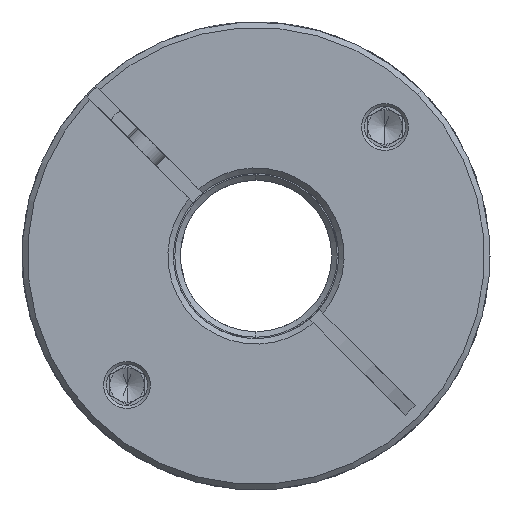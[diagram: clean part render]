
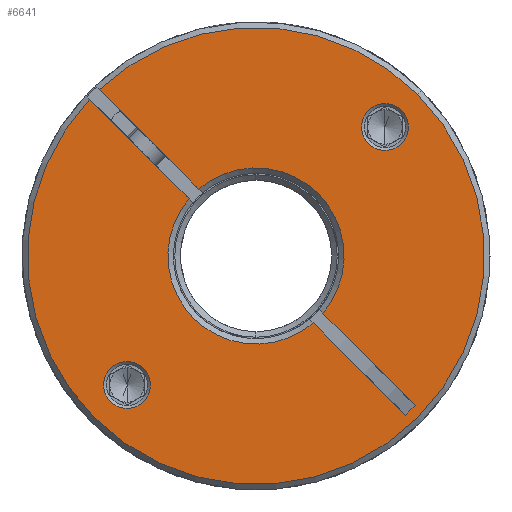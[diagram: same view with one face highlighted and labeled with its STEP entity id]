
A CAD part, front view. The second image highlights one B-rep face of the part: STEP entity #6641.
In plain terms, the highlighted planar face has unit normal (0, -1, 0).
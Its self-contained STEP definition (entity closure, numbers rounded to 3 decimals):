
#96 = CARTESIAN_POINT ( 'NONE',  ( -2.735, -67.045, 68. ) ) ;
#112 = CARTESIAN_POINT ( 'NONE',  ( -19.069, -67.045, 51.666 ) ) ;
#345 = DIRECTION ( 'NONE',  ( 0., 1., 0. ) ) ;
#579 = VERTEX_POINT ( 'NONE', #12844 ) ;
#921 = AXIS2_PLACEMENT_3D ( 'NONE', #18642, #13602, #7111 ) ;
#1313 = CARTESIAN_POINT ( 'NONE',  ( -21.473, -67.045, 49.262 ) ) ;
#1530 = CARTESIAN_POINT ( 'NONE',  ( -26.908, -67.045, 90.758 ) ) ;
#1947 = EDGE_CURVE ( 'NONE', #2160, #10834, #5643, .T. ) ;
#2086 = CARTESIAN_POINT ( 'NONE',  ( 16.003, -67.045, 86.738 ) ) ;
#2113 = DIRECTION ( 'NONE',  ( 0.707, 0., 0.707 ) ) ;
#2160 = VERTEX_POINT ( 'NONE', #17704 ) ;
#2212 = CIRCLE ( 'NONE', #14726, 33.2 ) ;
#2274 = DIRECTION ( 'NONE',  ( 0.707, 0., 0.707 ) ) ;
#2283 = DIRECTION ( 'NONE',  ( -0.707, 0., -0.707 ) ) ;
#2459 = EDGE_CURVE ( 'NONE', #16603, #4626, #15857, .T. ) ;
#2693 = CIRCLE ( 'NONE', #17667, 3.4 ) ;
#2776 = CARTESIAN_POINT ( 'NONE',  ( 13.599, -67.045, 84.334 ) ) ;
#3267 = CIRCLE ( 'NONE', #14292, 33.2 ) ;
#3310 = DIRECTION ( 'NONE',  ( 0., 1., 0. ) ) ;
#3694 = LINE ( 'NONE', #20090, #15711 ) ;
#3857 = ORIENTED_EDGE ( 'NONE', *, *, #18635, .T. ) ;
#3878 = CARTESIAN_POINT ( 'NONE',  ( -2.735, -67.045, 68. ) ) ;
#4370 = VERTEX_POINT ( 'NONE', #10350 ) ;
#4403 = DIRECTION ( 'NONE',  ( 0.707, 0., 0.707 ) ) ;
#4626 = VERTEX_POINT ( 'NONE', #10894 ) ;
#5225 = LINE ( 'NONE', #15446, #18880 ) ;
#5359 = EDGE_CURVE ( 'NONE', #8835, #12065, #14728, .T. ) ;
#5553 = FACE_BOUND ( 'NONE', #18301, .T. ) ;
#5595 = CARTESIAN_POINT ( 'NONE',  ( 20.402, -67.045, 46.277 ) ) ;
#5643 = CIRCLE ( 'NONE', #15211, 12.8 ) ;
#5666 = PLANE ( 'NONE',  #6528 ) ;
#5888 = ORIENTED_EDGE ( 'NONE', *, *, #19099, .T. ) ;
#5935 = CARTESIAN_POINT ( 'NONE',  ( -21.473, -67.045, 49.262 ) ) ;
#6236 = EDGE_CURVE ( 'NONE', #20169, #11390, #2693, .T. ) ;
#6528 = AXIS2_PLACEMENT_3D ( 'NONE', #18557, #17151, #2113 ) ;
#6560 = VECTOR ( 'NONE', #13234, 1000. ) ;
#6641 = ADVANCED_FACE ( 'NONE', ( #5553, #15030, #10391 ), #5666, .T. ) ;
#6821 = CARTESIAN_POINT ( 'NONE',  ( -2.028, -67.045, 68.707 ) ) ;
#7085 = EDGE_CURVE ( 'NONE', #14540, #2160, #19960, .T. ) ;
#7111 = DIRECTION ( 'NONE',  ( 0.707, 0., 0.707 ) ) ;
#7165 = VECTOR ( 'NONE', #2283, 1000. ) ;
#7708 = AXIS2_PLACEMENT_3D ( 'NONE', #11542, #13189, #16526 ) ;
#7863 = CARTESIAN_POINT ( 'NONE',  ( -23.878, -67.045, 46.858 ) ) ;
#8000 = VERTEX_POINT ( 'NONE', #18531 ) ;
#8171 = EDGE_CURVE ( 'NONE', #579, #4626, #5225, .T. ) ;
#8244 = DIRECTION ( 'NONE',  ( 0.707, 0., -0.707 ) ) ;
#8682 = ORIENTED_EDGE ( 'NONE', *, *, #12754, .T. ) ;
#8835 = VERTEX_POINT ( 'NONE', #1530 ) ;
#8938 = ORIENTED_EDGE ( 'NONE', *, *, #7085, .T. ) ;
#9269 = CARTESIAN_POINT ( 'NONE',  ( -2.735, -67.045, 68. ) ) ;
#9451 = CARTESIAN_POINT ( 'NONE',  ( -26.211, -67.045, 44.524 ) ) ;
#9524 = DIRECTION ( 'NONE',  ( 0., 1., 0. ) ) ;
#9591 = EDGE_LOOP ( 'NONE', ( #18431, #5888 ) ) ;
#9814 = DIRECTION ( 'NONE',  ( 0., 1., 0. ) ) ;
#10350 = CARTESIAN_POINT ( 'NONE',  ( 6.995, -67.045, 59.684 ) ) ;
#10385 = CARTESIAN_POINT ( 'NONE',  ( 18.988, -67.045, 44.862 ) ) ;
#10391 = FACE_OUTER_BOUND ( 'NONE', #14769, .T. ) ;
#10405 = DIRECTION ( 'NONE',  ( 0.707, 0., 0.707 ) ) ;
#10568 = DIRECTION ( 'NONE',  ( 0., 1., 0. ) ) ;
#10705 = AXIS2_PLACEMENT_3D ( 'NONE', #1313, #3310, #14767 ) ;
#10827 = AXIS2_PLACEMENT_3D ( 'NONE', #9269, #10889, #4403 ) ;
#10834 = VERTEX_POINT ( 'NONE', #14389 ) ;
#10889 = DIRECTION ( 'NONE',  ( 0., -1., 0. ) ) ;
#10894 = CARTESIAN_POINT ( 'NONE',  ( 18.988, -67.045, 44.862 ) ) ;
#11214 = CARTESIAN_POINT ( 'NONE',  ( 16.003, -67.045, 86.738 ) ) ;
#11390 = VERTEX_POINT ( 'NONE', #7863 ) ;
#11542 = CARTESIAN_POINT ( 'NONE',  ( -2.735, -67.045, 68. ) ) ;
#11730 = DIRECTION ( 'NONE',  ( 0., -1., 0. ) ) ;
#12065 = VERTEX_POINT ( 'NONE', #9451 ) ;
#12097 = CARTESIAN_POINT ( 'NONE',  ( -12.466, -67.045, 76.316 ) ) ;
#12219 = CIRCLE ( 'NONE', #10705, 3.4 ) ;
#12621 = EDGE_CURVE ( 'NONE', #8000, #14540, #2212, .T. ) ;
#12754 = EDGE_CURVE ( 'NONE', #12065, #8000, #3267, .T. ) ;
#12844 = CARTESIAN_POINT ( 'NONE',  ( 5.581, -67.045, 58.27 ) ) ;
#12949 = ORIENTED_EDGE ( 'NONE', *, *, #2459, .T. ) ;
#12993 = CIRCLE ( 'NONE', #921, 12.8 ) ;
#13067 = CARTESIAN_POINT ( 'NONE',  ( -3.442, -67.045, 67.293 ) ) ;
#13189 = DIRECTION ( 'NONE',  ( 0., 1., 0. ) ) ;
#13234 = DIRECTION ( 'NONE',  ( 0.707, 0., -0.707 ) ) ;
#13422 = CIRCLE ( 'NONE', #13522, 3.4 ) ;
#13449 = DIRECTION ( 'NONE',  ( 0.707, 0., 0.707 ) ) ;
#13522 = AXIS2_PLACEMENT_3D ( 'NONE', #2086, #345, #10405 ) ;
#13549 = ORIENTED_EDGE ( 'NONE', *, *, #19064, .T. ) ;
#13602 = DIRECTION ( 'NONE',  ( 0., 1., 0. ) ) ;
#13805 = ORIENTED_EDGE ( 'NONE', *, *, #14914, .T. ) ;
#14231 = EDGE_CURVE ( 'NONE', #8835, #14922, #20692, .T. ) ;
#14259 = DIRECTION ( 'NONE',  ( 0.707, 0., -0.707 ) ) ;
#14275 = CIRCLE ( 'NONE', #18222, 3.4 ) ;
#14292 = AXIS2_PLACEMENT_3D ( 'NONE', #3878, #20380, #2274 ) ;
#14389 = CARTESIAN_POINT ( 'NONE',  ( 6.316, -67.045, 77.051 ) ) ;
#14425 = EDGE_CURVE ( 'NONE', #15950, #18968, #13422, .T. ) ;
#14540 = VERTEX_POINT ( 'NONE', #15506 ) ;
#14726 = AXIS2_PLACEMENT_3D ( 'NONE', #96, #11730, #13449 ) ;
#14728 = CIRCLE ( 'NONE', #10827, 33.2 ) ;
#14767 = DIRECTION ( 'NONE',  ( 0.707, 0., 0.707 ) ) ;
#14769 = EDGE_LOOP ( 'NONE', ( #17511, #20192, #8682, #15046, #8938, #19438, #3857, #13805, #12949, #18585, #20034 ) ) ;
#14914 = EDGE_CURVE ( 'NONE', #4370, #16603, #3694, .T. ) ;
#14922 = VERTEX_POINT ( 'NONE', #12097 ) ;
#15030 = FACE_BOUND ( 'NONE', #9591, .T. ) ;
#15046 = ORIENTED_EDGE ( 'NONE', *, *, #12621, .T. ) ;
#15211 = AXIS2_PLACEMENT_3D ( 'NONE', #17021, #10568, #15337 ) ;
#15337 = DIRECTION ( 'NONE',  ( 0.707, 0., 0.707 ) ) ;
#15446 = CARTESIAN_POINT ( 'NONE',  ( -3.442, -67.045, 67.293 ) ) ;
#15502 = VECTOR ( 'NONE', #8244, 1000. ) ;
#15506 = CARTESIAN_POINT ( 'NONE',  ( -25.493, -67.045, 92.172 ) ) ;
#15711 = VECTOR ( 'NONE', #17098, 1000. ) ;
#15759 = ORIENTED_EDGE ( 'NONE', *, *, #14425, .T. ) ;
#15834 = DIRECTION ( 'NONE',  ( 0.707, 0., 0.707 ) ) ;
#15857 = LINE ( 'NONE', #10385, #7165 ) ;
#15863 = CIRCLE ( 'NONE', #7708, 12.8 ) ;
#15950 = VERTEX_POINT ( 'NONE', #20086 ) ;
#16526 = DIRECTION ( 'NONE',  ( 0.707, 0., 0.707 ) ) ;
#16603 = VERTEX_POINT ( 'NONE', #5595 ) ;
#17021 = CARTESIAN_POINT ( 'NONE',  ( -2.735, -67.045, 68. ) ) ;
#17098 = DIRECTION ( 'NONE',  ( 0.707, 0., -0.707 ) ) ;
#17151 = DIRECTION ( 'NONE',  ( 0., -1., 0. ) ) ;
#17511 = ORIENTED_EDGE ( 'NONE', *, *, #14231, .F. ) ;
#17667 = AXIS2_PLACEMENT_3D ( 'NONE', #5935, #9524, #15834 ) ;
#17704 = CARTESIAN_POINT ( 'NONE',  ( -11.051, -67.045, 77.73 ) ) ;
#18222 = AXIS2_PLACEMENT_3D ( 'NONE', #11214, #9814, #19431 ) ;
#18242 = EDGE_CURVE ( 'NONE', #579, #14922, #12993, .T. ) ;
#18301 = EDGE_LOOP ( 'NONE', ( #15759, #13549 ) ) ;
#18431 = ORIENTED_EDGE ( 'NONE', *, *, #6236, .T. ) ;
#18531 = CARTESIAN_POINT ( 'NONE',  ( 20.741, -67.045, 91.476 ) ) ;
#18557 = CARTESIAN_POINT ( 'NONE',  ( -2.735, -67.045, 68. ) ) ;
#18585 = ORIENTED_EDGE ( 'NONE', *, *, #8171, .F. ) ;
#18635 = EDGE_CURVE ( 'NONE', #10834, #4370, #15863, .T. ) ;
#18642 = CARTESIAN_POINT ( 'NONE',  ( -2.735, -67.045, 68. ) ) ;
#18880 = VECTOR ( 'NONE', #14259, 1000. ) ;
#18968 = VERTEX_POINT ( 'NONE', #2776 ) ;
#19064 = EDGE_CURVE ( 'NONE', #18968, #15950, #14275, .T. ) ;
#19099 = EDGE_CURVE ( 'NONE', #11390, #20169, #12219, .T. ) ;
#19431 = DIRECTION ( 'NONE',  ( 0.707, 0., 0.707 ) ) ;
#19438 = ORIENTED_EDGE ( 'NONE', *, *, #1947, .T. ) ;
#19960 = LINE ( 'NONE', #6821, #6560 ) ;
#20034 = ORIENTED_EDGE ( 'NONE', *, *, #18242, .T. ) ;
#20086 = CARTESIAN_POINT ( 'NONE',  ( 18.407, -67.045, 89.142 ) ) ;
#20090 = CARTESIAN_POINT ( 'NONE',  ( -2.028, -67.045, 68.707 ) ) ;
#20169 = VERTEX_POINT ( 'NONE', #112 ) ;
#20192 = ORIENTED_EDGE ( 'NONE', *, *, #5359, .T. ) ;
#20380 = DIRECTION ( 'NONE',  ( 0., -1., 0. ) ) ;
#20692 = LINE ( 'NONE', #13067, #15502 ) ;
